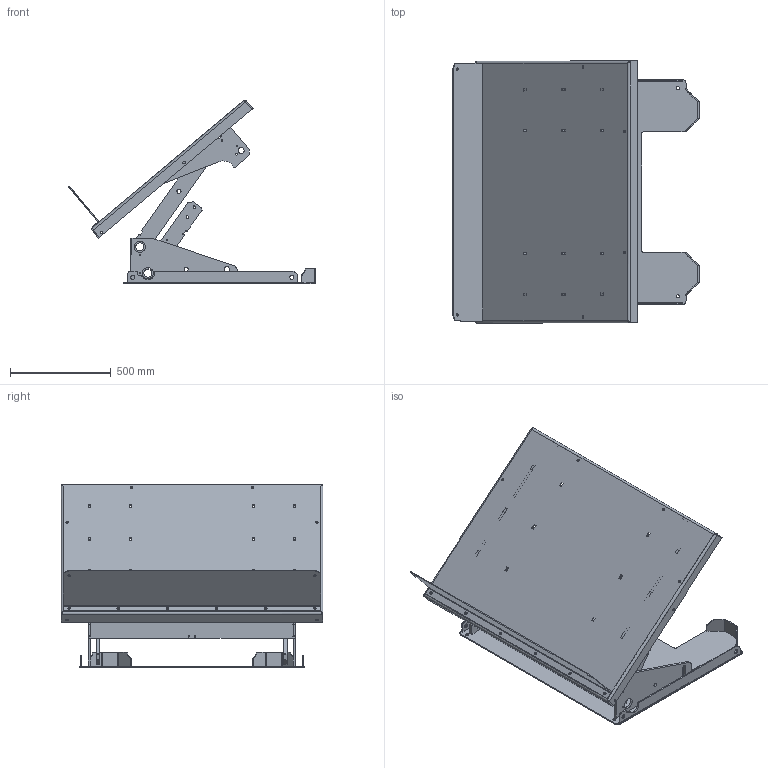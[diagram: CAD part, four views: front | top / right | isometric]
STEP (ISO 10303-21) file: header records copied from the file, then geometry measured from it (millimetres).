
FILE_DESCRIPTION(/* description */ ('ART 1500 (1000x1300)'),/* implementation_level */ '2;1');
FILE_NAME(/* name */ 'C:\Autodesk_VaultWork\Ritningar\STP\22023_Raised_40Degrees.stp',/* time_stamp */ '2019-06-26T08:09:15+02:00',/* author */ ('johso'),/* organization */ (''),/* preprocessor_version */ 'ST-DEVELOPER v16.5',/* originating_system */ 'Autodesk Inventor 2017',/* authorisation */ '');
FILE_SCHEMA (('AUTOMOTIVE_DESIGN { 1 0 10303 214 3 1 1 }'));
Length unit declared in the file: millimetre
Products named in the file (15): 22023.tmp; 35062; 609164; 609162; 609163; 34547; 34509; 35061; 34561; 35060; 34559; 35064; 35391; 34557; 34546
Assembly tree (20 placements, depth 3):
  22023.tmp
    35062
      609164
      609162
      609163  x2
      34547  x2
      34509  x2
    35061
      34561  x2
    35060
      34559  x2
    35064
      35391
      34557  x2
    34546
Bounding box: 1222.14 x 1300 x 908.84 mm (x, y, z)
Volume: 22862405.9 mm3; surface area: 7102890.8 mm2
Topology: 16 solids, 16 shells, 1374 faces, 3958 edges, 2620 vertices
Faces by surface type: cylinder 872, plane 494, bspline 8
Full cylindrical faces by diameter (mm): 5.7 x2, 6.9 x4, 7.4 x16, 8.5 x2, 11 x4, 12 x12, 12.5 x12, 15 x4, 20 x6, 30.2 x4
Entity records: 34213 total; most frequent: DIRECTION 6156, CARTESIAN_POINT 6117, ORIENTED_EDGE 5680, EDGE_CURVE 2840, AXIS2_PLACEMENT_3D 2299, VERTEX_POINT 1908, LINE 1558, VECTOR 1558
